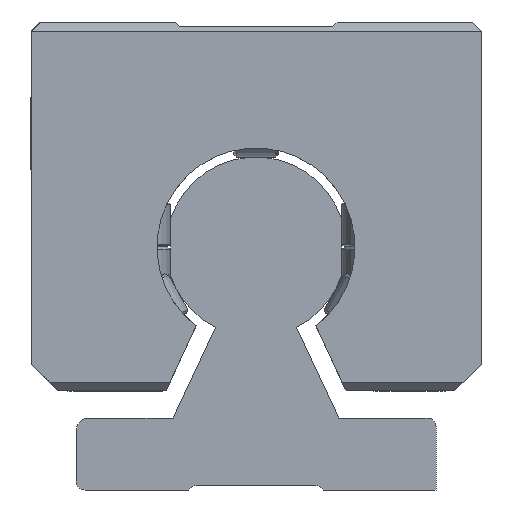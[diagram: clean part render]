
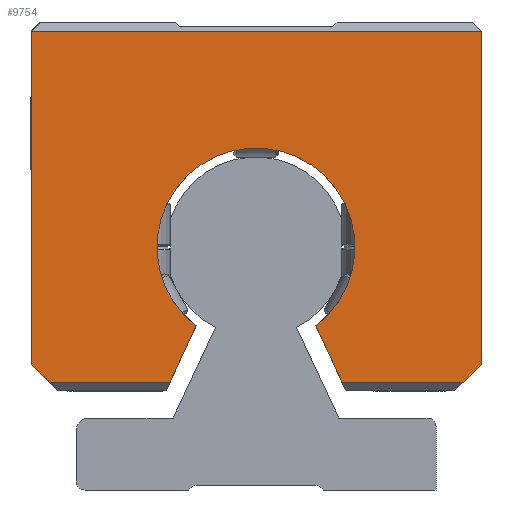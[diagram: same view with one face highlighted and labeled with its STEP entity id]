
A CAD part, left-side view. The second image highlights one B-rep face of the part: STEP entity #9754.
In plain terms, the highlighted planar face has unit normal (-1, 0, 0).
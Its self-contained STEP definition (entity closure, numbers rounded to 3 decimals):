
#8402=CARTESIAN_POINT('',(274.307,-6.632,18.224));
#8403=VERTEX_POINT('',#8402);
#8410=CARTESIAN_POINT('',(274.307,6.632,18.224));
#8411=VERTEX_POINT('',#8410);
#8412=CARTESIAN_POINT('',(274.307,0.,27.0));
#8413=DIRECTION('',(-1.0,0.0,0.0));
#8414=DIRECTION('',(0.0,-1.0,0.0));
#8415=AXIS2_PLACEMENT_3D('',#8412,#8413,#8414);
#8416=CIRCLE('',#8415,11.0);
#8417=EDGE_CURVE('',#8403,#8411,#8416,.T.);
#8937=CARTESIAN_POINT('',(274.307,-25.,51.));
#8938=VERTEX_POINT('',#8937);
#8947=CARTESIAN_POINT('',(274.307,-25.,14.));
#8948=VERTEX_POINT('',#8947);
#8949=CARTESIAN_POINT('',(274.307,-25.,51.));
#8950=DIRECTION('',(0.0,0.0,-1.0));
#8951=VECTOR('',#8950,37.);
#8952=LINE('',#8949,#8951);
#8953=EDGE_CURVE('',#8938,#8948,#8952,.T.);
#9384=CARTESIAN_POINT('',(274.307,25.,51.));
#9385=VERTEX_POINT('',#9384);
#9392=CARTESIAN_POINT('',(274.307,25.,51.));
#9393=DIRECTION('',(0.0,-1.0,0.0));
#9394=VECTOR('',#9393,50.0);
#9395=LINE('',#9392,#9394);
#9396=EDGE_CURVE('',#9385,#8938,#9395,.T.);
#9406=CARTESIAN_POINT('',(274.307,23.,12.));
#9407=VERTEX_POINT('',#9406);
#9424=CARTESIAN_POINT('',(274.307,9.534,12.));
#9425=VERTEX_POINT('',#9424);
#9432=CARTESIAN_POINT('',(274.307,9.534,12.));
#9433=DIRECTION('',(0.0,1.0,0.0));
#9434=VECTOR('',#9433,13.466);
#9435=LINE('',#9432,#9434);
#9436=EDGE_CURVE('',#9425,#9407,#9435,.T.);
#9498=CARTESIAN_POINT('',(274.307,25.,14.));
#9499=VERTEX_POINT('',#9498);
#9500=CARTESIAN_POINT('',(274.307,23.,12.));
#9501=DIRECTION('',(0.0,0.707,0.707));
#9502=VECTOR('',#9501,2.828);
#9503=LINE('',#9500,#9502);
#9504=EDGE_CURVE('',#9407,#9499,#9503,.T.);
#9680=CARTESIAN_POINT('',(274.307,-23.,12.));
#9681=VERTEX_POINT('',#9680);
#9682=CARTESIAN_POINT('',(274.307,-25.,14.));
#9683=DIRECTION('',(0.0,0.707,-0.707));
#9684=VECTOR('',#9683,2.828);
#9685=LINE('',#9682,#9684);
#9686=EDGE_CURVE('',#8948,#9681,#9685,.T.);
#9704=CARTESIAN_POINT('',(274.307,-9.534,12.));
#9705=VERTEX_POINT('',#9704);
#9706=CARTESIAN_POINT('',(274.307,-23.,12.));
#9707=DIRECTION('',(0.0,1.0,0.0));
#9708=VECTOR('',#9707,13.466);
#9709=LINE('',#9706,#9708);
#9710=EDGE_CURVE('',#9681,#9705,#9709,.T.);
#9722=CARTESIAN_POINT('',(274.307,-17.,51.75));
#9723=DIRECTION('',(1.0,0.0,0.0));
#9724=DIRECTION('',(0.0,0.0,-1.0));
#9725=AXIS2_PLACEMENT_3D('',#9722,#9723,#9724);
#9726=PLANE('',#9725);
#9727=ORIENTED_EDGE('',*,*,#9436,.F.);
#9728=CARTESIAN_POINT('',(274.307,6.632,18.224));
#9729=DIRECTION('',(0.0,0.423,-0.906));
#9730=VECTOR('',#9729,6.867);
#9731=LINE('',#9728,#9730);
#9732=EDGE_CURVE('',#8411,#9425,#9731,.T.);
#9733=ORIENTED_EDGE('',*,*,#9732,.F.);
#9734=ORIENTED_EDGE('',*,*,#8417,.F.);
#9735=CARTESIAN_POINT('',(274.307,-9.534,12.));
#9736=DIRECTION('',(0.0,0.423,0.906));
#9737=VECTOR('',#9736,6.867);
#9738=LINE('',#9735,#9737);
#9739=EDGE_CURVE('',#9705,#8403,#9738,.T.);
#9740=ORIENTED_EDGE('',*,*,#9739,.F.);
#9741=ORIENTED_EDGE('',*,*,#9710,.F.);
#9742=ORIENTED_EDGE('',*,*,#9686,.F.);
#9743=ORIENTED_EDGE('',*,*,#8953,.F.);
#9744=ORIENTED_EDGE('',*,*,#9396,.F.);
#9745=CARTESIAN_POINT('',(274.307,25.,14.));
#9746=DIRECTION('',(0.0,0.0,1.0));
#9747=VECTOR('',#9746,37.);
#9748=LINE('',#9745,#9747);
#9749=EDGE_CURVE('',#9499,#9385,#9748,.T.);
#9750=ORIENTED_EDGE('',*,*,#9749,.F.);
#9751=ORIENTED_EDGE('',*,*,#9504,.F.);
#9752=EDGE_LOOP('',(#9727,#9733,#9734,#9740,#9741,#9742,#9743,#9744,#9750,#9751));
#9753=FACE_OUTER_BOUND('',#9752,.T.);
#9754=ADVANCED_FACE('',(#9753),#9726,.F.);
